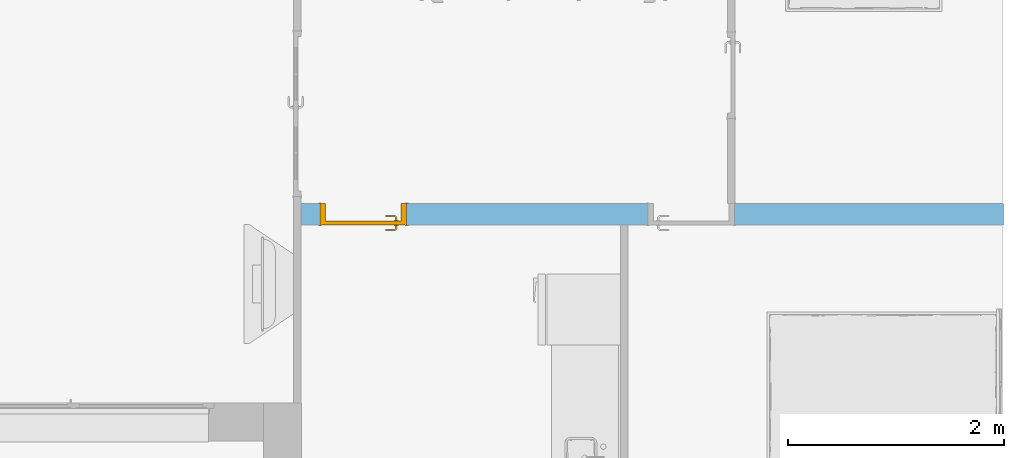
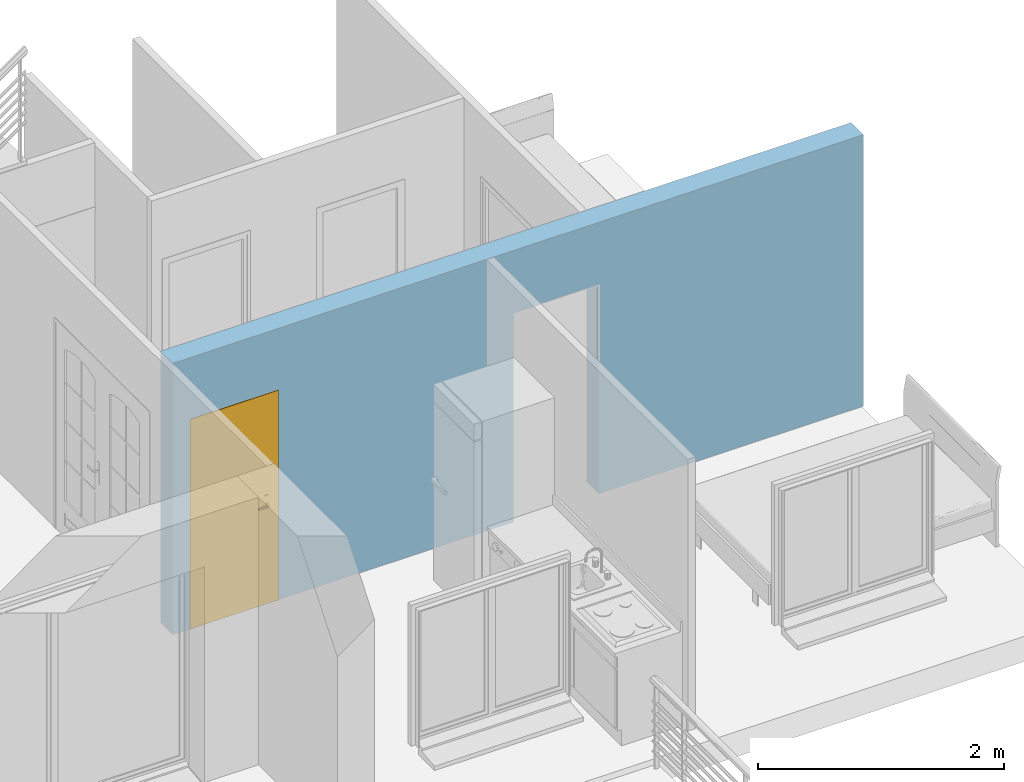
# One storey, part 8 of 15: 1 door, 2 openings, plus 1 element that does not belong to this part.
"""IFC2X3 building model written with IfcOpenShell, lengths in metres."""

from ifc_helpers import new_model, entity, si_unit, converted_unit, derived_unit, direction, frame, frame_2d, origin, place, context, subcontext, project, spatial, polyline, rectangle, extrude, clip, bounded_halfspace, faceted_brep, source, transform, mapped, material, material_list, layer, layer_set, layer_usage, type_object, type_shapes, element, fill, save


model = new_model("IFC2X3")

# Units and contexts
model_context = context("Model", 3, precision=1e-05, world=origin(), true_north=direction((6.12303176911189e-17, 1.0)))
body_context = subcontext(model_context, "Body", "Model", "MODEL_VIEW")
ifc_project = project(units=[si_unit("LENGTHUNIT", "METRE"), si_unit("AREAUNIT", "SQUARE_METRE"), si_unit("VOLUMEUNIT", "CUBIC_METRE"), converted_unit("PLANEANGLEUNIT", "DEGREE", entity("IfcRatioMeasure", 0.0174532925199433), si_unit("PLANEANGLEUNIT", "RADIAN"), dimensions=[0, 0, 0, 0, 0, 0, 0]), si_unit("MASSUNIT", "GRAM", prefix="KILO"), derived_unit("MASSDENSITYUNIT", [(si_unit("MASSUNIT", "GRAM", prefix="KILO"), 1), (si_unit("LENGTHUNIT", "METRE"), -3)]), derived_unit("MOMENTOFINERTIAUNIT", [(si_unit("LENGTHUNIT", "METRE"), 4)]), si_unit("TIMEUNIT", "SECOND"), si_unit("FREQUENCYUNIT", "HERTZ"), si_unit("THERMODYNAMICTEMPERATUREUNIT", "DEGREE_CELSIUS"), derived_unit("THERMALTRANSMITTANCEUNIT", [(si_unit("MASSUNIT", "GRAM", prefix="KILO"), 1), (si_unit("THERMODYNAMICTEMPERATUREUNIT", "KELVIN"), -1), (si_unit("TIMEUNIT", "SECOND"), -3)]), derived_unit("VOLUMETRICFLOWRATEUNIT", [(si_unit("LENGTHUNIT", "METRE"), 3), (si_unit("TIMEUNIT", "SECOND"), -1)]), si_unit("ELECTRICCURRENTUNIT", "AMPERE"), si_unit("ELECTRICVOLTAGEUNIT", "VOLT"), si_unit("POWERUNIT", "WATT"), si_unit("FORCEUNIT", "NEWTON", prefix="KILO"), si_unit("ILLUMINANCEUNIT", "LUX"), si_unit("LUMINOUSFLUXUNIT", "LUMEN"), si_unit("LUMINOUSINTENSITYUNIT", "CANDELA"), derived_unit("USERDEFINED", [(si_unit("MASSUNIT", "GRAM", prefix="KILO"), -1), (si_unit("LENGTHUNIT", "METRE"), -2), (si_unit("TIMEUNIT", "SECOND"), 3), (si_unit("LUMINOUSFLUXUNIT", "LUMEN"), 1)]), derived_unit("LINEARVELOCITYUNIT", [(si_unit("LENGTHUNIT", "METRE"), 1), (si_unit("TIMEUNIT", "SECOND"), -1)]), si_unit("PRESSUREUNIT", "PASCAL"), derived_unit("USERDEFINED", [(si_unit("LENGTHUNIT", "METRE"), -2), (si_unit("MASSUNIT", "GRAM", prefix="KILO"), 1), (si_unit("TIMEUNIT", "SECOND"), -2)]), derived_unit("LINEARFORCEUNIT", [(si_unit("MASSUNIT", "GRAM", prefix="KILO"), 1), (si_unit("LENGTHUNIT", "METRE"), 1), (si_unit("TIMEUNIT", "SECOND"), -2), (si_unit("LENGTHUNIT", "METRE"), -1)]), derived_unit("PLANARFORCEUNIT", [(si_unit("MASSUNIT", "GRAM", prefix="KILO"), 1), (si_unit("LENGTHUNIT", "METRE"), 1), (si_unit("TIMEUNIT", "SECOND"), -2), (si_unit("LENGTHUNIT", "METRE"), -2)])], contexts=[model_context])

# Site, building, storey
site_placement = place(None, origin())
site = spatial("IfcSite", under=ifc_project, at=site_placement, Name="Surface", CompositionType="ELEMENT")
building_placement = place(site_placement, origin())
building = spatial("IfcBuilding", under=site, at=building_placement, CompositionType="ELEMENT")
storey_placement = place(building_placement, frame((0.0, 0.0, 2.65)))
storey = spatial("IfcBuildingStorey", under=building, at=storey_placement, Name="Niveau étage", CompositionType="ELEMENT", Elevation=2.65)

# Wall, openings, door
ifc_material_1 = material(Name="Mur par défaut")
ifc_layer = layer(ifc_material_1, 0.2)
ifc_layer_set = layer_set([ifc_layer], Name="Mur de base:Générique - Ext. 200 mm")
ifc_layer_usage = layer_usage(ifc_layer_set, "AXIS2", "NEGATIVE", 0.1)
wall_type = type_object("IfcWallType", Name="Mur de base:Générique - Ext. 200 mm", PredefinedType="STANDARD", material=ifc_layer_set)
wall_placement = place(storey_placement, frame((5.95939607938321, 2.9542581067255, 0.0)))
wall = element("IfcWallStandardCase", 1, at=wall_placement, inside=storey, type_object=wall_type, material=ifc_layer_usage, Name="Mur de base:Générique - Ext. 200 mm", ObjectType="Mur de base:Générique - Ext. 200 mm", context=body_context, shape_type="Clipping", body=[
    clip(extrude(rectangle(XDim=6.495, YDim=0.2, at=frame_2d((3.2475, -7.63278329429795e-17), x_axis=(-1.0, 0.0))), origin(), (0.0, 0.0, 1.0), 2.7), bounded_halfspace(frame((0.0, -0.1, 2.7), z_axis=(0.0, 0.0, -1.0), x_axis=(-1.0, 0.0, 0.0)), True, frame((0.0, -0.1, 2.7)), polyline([(0.0, 0.0), (2.95, 0.0), (3.02, 0.0), (6.495, 0.0), (6.495, 0.2), (4.01, 0.2), (3.94, 0.2), (0.0, 0.2), (0.0, 0.0)]))),
])
opening_1_placement = place(wall_placement, frame((0.974999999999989, 0.0999999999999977, 0.0)))
opening_1 = element("IfcOpeningElement", 2, at=opening_1_placement, cuts=wall, Name="Int. Simple:PP (0.73m x 2.04m):1", ObjectType="Opening", context=body_context, shape_type="SweptSolid", body=[
    extrude(rectangle(XDim=2.075, YDim=0.799999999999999, at=frame_2d((1.0375, 0.4), x_axis=(1.0, 0.0))), frame((0.0, 0.0, 0.0), z_axis=(0.0, -1.0, 0.0), x_axis=(0.0, 0.0, 1.0)), (0.0, 0.0, 1.0), 0.2),
])
opening_2_placement = place(wall_placement, frame((4.00500000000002, 0.0999999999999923, 0.0)))
element("IfcOpeningElement", 3, at=opening_2_placement, cuts=wall, Name="Int. Simple:PP (0.73m x 2.04m):1", ObjectType="Opening", context=body_context, shape_type="SweptSolid", body=[
    extrude(rectangle(XDim=2.075, YDim=0.799999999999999, at=frame_2d((1.0375, 0.4), x_axis=(1.0, 0.0))), frame((0.0, 0.0, 0.0), z_axis=(0.0, -1.0, 0.0), x_axis=(0.0, 0.0, 1.0)), (0.0, 0.0, 1.0), 0.2),
])
ifc_material_2 = material(Name="Finition Peinture - Blanc satiné")
ifc_material_3 = material(Name="Bois - Panneau de porte")
ifc_material_4 = material(Name="Bois - Cadre de porte")
ifc_material_list_1 = material_list([ifc_material_2, ifc_material_3, ifc_material_4])
ifc_material_list_2 = material_list([ifc_material_4, ifc_material_3, ifc_material_2])
door_style = type_object("IfcDoorStyle", Name="Int. Simple:PP (0.73m x 2.04m)", ConstructionType="NOTDEFINED", OperationType="NOTDEFINED", ParameterTakesPrecedence=False, Sizeable=False, material=ifc_material_list_2)
shared_shape = source(origin(), body_context, "Body", "Brep", [
    faceted_brep([(0.795000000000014, -0.00500000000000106, 0.870000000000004), (0.795000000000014, -0.00500000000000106, 1.08), (0.785352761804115, -0.00500000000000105, 1.08399601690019), (0.775000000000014, -0.00500000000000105, 1.08535898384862), (0.764647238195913, -0.00500000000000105, 1.08399601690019), (0.755000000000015, -0.00500000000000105, 1.08), (0.755000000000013, -0.00500000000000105, 0.870000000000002), (0.764647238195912, -0.00500000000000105, 0.866003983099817), (0.775000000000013, -0.00500000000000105, 0.86464101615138), (0.785352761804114, -0.00500000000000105, 0.866003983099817), (0.795000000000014, 0.0, 1.08), (0.795000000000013, 0.0, 0.870000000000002), (0.785352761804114, 0.0, 0.866003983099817), (0.775000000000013, 0.0, 0.86464101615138), (0.764647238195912, 0.0, 0.866003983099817), (0.755000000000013, 0.0, 0.870000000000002), (0.755000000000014, 0.0, 1.08), (0.764647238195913, 0.0, 1.08399601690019), (0.775000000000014, 0.0, 1.08535898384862), (0.785352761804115, 0.0, 1.08399601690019)], [[[0, 1, 2, 3, 4, 5, 6, 7, 8, 9]], [[10, 11, 12, 13, 14, 15, 16, 17, 18, 19]], [[9, 12, 11, 0]], [[8, 13, 12, 9]], [[7, 14, 13, 8]], [[7, 6, 15, 14]], [[15, 6, 5, 16]], [[4, 17, 16, 5]], [[3, 18, 17, 4]], [[2, 19, 18, 3]], [[2, 1, 10, 19]], [[11, 10, 1, 0]]]),
    faceted_brep([(0.795000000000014, 0.0399999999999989, 0.870000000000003), (0.795000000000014, 0.0399999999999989, 1.08), (0.785352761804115, 0.0399999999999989, 1.08399601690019), (0.775000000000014, 0.0399999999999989, 1.08535898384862), (0.764647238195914, 0.0399999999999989, 1.08399601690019), (0.755000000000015, 0.0399999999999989, 1.08), (0.755000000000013, 0.0399999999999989, 0.870000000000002), (0.764647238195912, 0.0399999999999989, 0.866003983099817), (0.775000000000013, 0.0399999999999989, 0.86464101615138), (0.785352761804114, 0.0399999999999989, 0.866003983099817), (0.775000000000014, 0.0449999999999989, 1.08535898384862), (0.785352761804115, 0.0449999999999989, 1.08399601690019), (0.795000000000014, 0.0449999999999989, 1.08), (0.795000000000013, 0.0449999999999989, 0.870000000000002), (0.785352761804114, 0.0449999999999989, 0.866003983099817), (0.775000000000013, 0.0449999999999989, 0.86464101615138), (0.764647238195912, 0.0449999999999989, 0.866003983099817), (0.755000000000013, 0.0449999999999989, 0.870000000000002), (0.755000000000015, 0.0449999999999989, 1.08), (0.764647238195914, 0.0449999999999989, 1.08399601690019)], [[[0, 1, 2, 3, 4, 5, 6, 7, 8, 9]], [[10, 11, 12, 13, 14, 15, 16, 17, 18, 19]], [[4, 19, 18, 5]], [[3, 10, 19, 4]], [[2, 11, 10, 3]], [[2, 1, 12, 11]], [[13, 12, 1, 0]], [[9, 14, 13, 0]], [[8, 15, 14, 9]], [[7, 16, 15, 8]], [[7, 6, 17, 16]], [[17, 6, 5, 18]]]),
    faceted_brep([(0.772974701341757, -0.00500000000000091, 1.00778044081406), (0.777025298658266, -0.00500000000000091, 1.00778044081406), (0.781000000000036, -0.00500000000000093, 1.00699999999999), (0.781000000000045, -0.00500000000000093, 0.992999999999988), (0.777025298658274, -0.00500000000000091, 0.99221955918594), (0.772974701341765, -0.00500000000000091, 0.992219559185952), (0.768999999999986, -0.00500000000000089, 0.993000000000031), (0.768999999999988, -0.00500000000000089, 1.007), (0.777025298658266, -0.0310045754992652, 1.00778044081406), (0.781000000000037, -0.0326509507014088, 1.007), (0.772974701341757, -0.0293267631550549, 1.00778044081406), (0.759298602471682, -0.0430028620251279, 1.00778044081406), (0.760976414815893, -0.0470534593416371, 1.00778044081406), (0.768999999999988, -0.0276803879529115, 1.007), (0.768999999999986, -0.0276803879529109, 0.993000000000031), (0.772974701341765, -0.0293267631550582, 0.992219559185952), (0.777025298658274, -0.0310045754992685, 0.99221955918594), (0.760976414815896, -0.0470534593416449, 0.99221955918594), (0.759298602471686, -0.0430028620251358, 0.992219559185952), (0.781000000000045, -0.0326509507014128, 0.992999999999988), (0.762622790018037, -0.051028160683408, 1.007), (0.757652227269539, -0.0390281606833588, 1.007), (0.757652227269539, -0.0390281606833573, 0.993000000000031), (0.76262279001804, -0.0510281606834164, 0.992999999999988), (0.674981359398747, -0.0510281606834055, 1.007), (0.674981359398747, -0.0470534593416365, 1.00778044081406), (0.674981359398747, -0.0430028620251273, 1.00778044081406), (0.674981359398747, -0.0390281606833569, 1.00699999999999), (0.674981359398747, -0.0390281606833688, 0.993000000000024), (0.674981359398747, -0.0430028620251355, 0.992219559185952), (0.674981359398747, -0.0470534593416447, 0.99221955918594), (0.674981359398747, -0.0510281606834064, 0.992999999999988), (0.71713998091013, -0.045028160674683, 1.0078786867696), (0.722692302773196, -0.051028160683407, 1.007), (0.716316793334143, -0.039028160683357, 1.007), (0.716316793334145, -0.0390281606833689, 0.993000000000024), (0.717139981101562, -0.0450281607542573, 0.992121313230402), (0.722692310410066, -0.0510281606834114, 0.992999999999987)], [[[0, 1, 2, 3, 4, 5, 6, 7]], [[2, 1, 8, 9]], [[1, 0, 10, 11, 12, 8]], [[0, 7, 13, 10]], [[14, 13, 7, 6]], [[5, 15, 14, 6]], [[5, 4, 16, 17, 18, 15]], [[3, 19, 16, 4]], [[9, 19, 3, 2]], [[9, 8, 12, 20]], [[10, 13, 21, 11]], [[22, 21, 13, 14]], [[14, 15, 18, 22]], [[16, 19, 23, 17]], [[20, 23, 19, 9]], [[24, 25, 26, 27, 28, 29, 30, 31]], [[32, 25, 33]], [[33, 25, 24]], [[33, 20, 12]], [[11, 34, 32]], [[34, 11, 21]], [[27, 26, 34]], [[32, 26, 25]], [[32, 34, 26]], [[32, 33, 12]], [[11, 32, 12]], [[21, 22, 35, 28, 27, 34]], [[36, 29, 35]], [[30, 36, 37]], [[18, 35, 22]], [[29, 28, 35]], [[30, 37, 31]], [[37, 17, 23]], [[36, 17, 37]], [[36, 18, 17]], [[36, 35, 18]], [[29, 36, 30]], [[23, 20, 33, 24, 31, 37]]]),
    faceted_brep([(0.772974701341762, 0.0449999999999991, 0.992219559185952), (0.777025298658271, 0.0449999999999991, 0.99221955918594), (0.781000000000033, 0.044999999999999, 0.992999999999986), (0.781000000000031, 0.044999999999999, 1.007), (0.777025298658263, 0.0449999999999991, 1.00778044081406), (0.772974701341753, 0.0449999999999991, 1.00778044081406), (0.768999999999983, 0.0449999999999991, 1.007), (0.768999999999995, 0.0449999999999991, 0.993000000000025), (0.768999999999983, 0.067485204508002, 1.007), (0.768999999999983, 0.0674852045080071, 0.993000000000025), (0.772974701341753, 0.0691315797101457, 1.00778044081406), (0.777025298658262, 0.070809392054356, 1.00778044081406), (0.760838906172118, 0.0869957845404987, 1.00778044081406), (0.759161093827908, 0.0829451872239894, 1.00778044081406), (0.781000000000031, 0.0724557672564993, 1.007), (0.781000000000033, 0.0724557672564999, 0.992999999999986), (0.777025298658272, 0.0708093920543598, 0.99221955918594), (0.772974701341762, 0.0691315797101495, 0.992219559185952), (0.759161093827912, 0.0829451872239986, 0.992219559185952), (0.760838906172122, 0.0869957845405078, 0.99221955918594), (0.757514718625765, 0.0789704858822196, 1.007), (0.757514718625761, 0.0789704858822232, 0.993000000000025), (0.762485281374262, 0.0909704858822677, 1.007), (0.762485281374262, 0.0909704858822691, 0.992999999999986), (0.674954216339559, 0.0829451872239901, 1.00778044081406), (0.674954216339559, 0.0869957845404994, 1.00778044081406), (0.674954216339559, 0.0909704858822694, 1.007), (0.674954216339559, 0.0909704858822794, 0.992999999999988), (0.674954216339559, 0.086995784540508, 0.99221955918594), (0.674954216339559, 0.0829451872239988, 0.992219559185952), (0.674954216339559, 0.0789704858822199, 0.993000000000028), (0.674954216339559, 0.0789704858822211, 1.007), (0.716234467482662, 0.0789704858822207, 1.007), (0.716234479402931, 0.0789704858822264, 0.993000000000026), (0.717057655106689, 0.0849704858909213, 1.0078786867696), (0.722554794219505, 0.0909704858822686, 1.007), (0.722554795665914, 0.0909704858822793, 0.992999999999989), (0.717057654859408, 0.0849704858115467, 0.992121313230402)], [[[0, 1, 2, 3, 4, 5, 6, 7]], [[8, 9, 7, 6]], [[5, 10, 8, 6]], [[5, 4, 11, 12, 13, 10]], [[3, 14, 11, 4]], [[14, 3, 2, 15]], [[2, 1, 16, 15]], [[1, 0, 17, 18, 19, 16]], [[0, 7, 9, 17]], [[20, 21, 9, 8]], [[8, 10, 13, 20]], [[14, 22, 12, 11]], [[23, 22, 14, 15]], [[15, 16, 19, 23]], [[17, 9, 21, 18]], [[24, 25, 26, 27, 28, 29, 30, 31]], [[21, 20, 32, 31, 30, 33]], [[34, 24, 32]], [[25, 34, 35]], [[13, 32, 20]], [[24, 31, 32]], [[25, 35, 26]], [[35, 12, 22]], [[34, 12, 35]], [[34, 13, 12]], [[34, 32, 13]], [[24, 34, 25]], [[22, 23, 36, 27, 26, 35]], [[37, 28, 36]], [[36, 28, 27]], [[36, 23, 19]], [[18, 33, 37]], [[33, 18, 21]], [[30, 29, 33]], [[37, 29, 28]], [[37, 33, 29]], [[37, 36, 19]], [[18, 37, 19]]]),
    faceted_brep([(0.835000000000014, 0.04, 2.04), (0.835000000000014, 0.04, 0.0), (0.105000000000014, 0.04, 0.0), (0.105000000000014, 0.04, 2.04), (0.835000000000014, 0.0, 2.04), (0.105000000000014, 0.0, 2.04), (0.105000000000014, 0.0, 0.0), (0.835000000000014, 0.0, 0.0)], [[[0, 1, 2, 3]], [[4, 5, 6, 7]], [[3, 5, 4, 0]], [[2, 6, 5, 3]], [[1, 7, 6, 2]], [[0, 4, 7, 1]]]),
    faceted_brep([(0.870000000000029, 0.0, 0.0), (0.835000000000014, 0.0, 0.0), (0.835000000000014, 0.040000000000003, 0.0), (0.820000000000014, 0.040000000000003, 0.0), (0.820000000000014, 0.200000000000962, 0.0), (0.870000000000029, 0.200000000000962, 0.0), (0.870000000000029, 0.200000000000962, 2.07500000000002), (0.870000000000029, 0.0, 2.07500000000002), (0.820000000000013, 0.200000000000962, 2.025), (0.120000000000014, 0.200000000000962, 2.025), (0.120000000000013, 0.200000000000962, 0.0), (0.0699999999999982, 0.200000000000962, 0.0), (0.0699999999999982, 0.200000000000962, 2.07500000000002), (0.820000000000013, 0.040000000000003, 2.025), (0.835000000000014, 0.040000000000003, 2.04), (0.105000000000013, 0.040000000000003, 2.04), (0.105000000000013, 0.040000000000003, 0.0), (0.120000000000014, 0.040000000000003, 0.0), (0.120000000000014, 0.040000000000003, 2.025), (0.835000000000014, 0.0, 2.04), (0.0699999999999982, 0.0, 2.07500000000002), (0.0699999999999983, 0.0, 0.0), (0.105000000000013, 0.0, 0.0), (0.105000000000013, 0.0, 2.04)], [[[0, 1, 2, 3, 4, 5]], [[5, 6, 7, 0]], [[4, 8, 9, 10, 11, 12, 6, 5]], [[3, 13, 8, 4]], [[2, 14, 15, 16, 17, 18, 13, 3]], [[1, 19, 14, 2]], [[0, 7, 20, 21, 22, 23, 19, 1]], [[12, 11, 21, 20]], [[21, 11, 10, 17, 16, 22]], [[18, 17, 10, 9]], [[23, 22, 16, 15]], [[6, 12, 20, 7]], [[13, 18, 9, 8]], [[19, 23, 15, 14]]]),
    faceted_brep([(0.855000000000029, 0.200000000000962, 0.0), (0.855000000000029, 0.205000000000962, 0.0), (0.885000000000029, 0.205000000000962, 0.0), (0.885000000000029, 0.200000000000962, 0.0), (0.885000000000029, 0.200000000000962, 2.09000000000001), (0.0550000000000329, 0.200000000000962, 2.09000000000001), (0.055000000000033, 0.200000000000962, 0.0), (0.0850000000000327, 0.200000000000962, 0.0), (0.0850000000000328, 0.200000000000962, 2.06000000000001), (0.855000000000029, 0.200000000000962, 2.06000000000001), (0.885000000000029, 0.205000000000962, 2.09000000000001), (0.855000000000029, 0.205000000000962, 2.06000000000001), (0.0850000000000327, 0.205000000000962, 2.06000000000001), (0.0850000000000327, 0.205000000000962, 0.0), (0.0550000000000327, 0.205000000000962, 0.0), (0.0550000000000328, 0.205000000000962, 2.09000000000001)], [[[0, 1, 2, 3]], [[3, 4, 5, 6, 7, 8, 9, 0]], [[2, 10, 4, 3]], [[1, 11, 12, 13, 14, 15, 10, 2]], [[0, 9, 11, 1]], [[7, 6, 14, 13]], [[8, 7, 13, 12]], [[15, 14, 6, 5]], [[10, 15, 5, 4]], [[9, 8, 12, 11]]]),
    faceted_brep([(0.885000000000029, -0.00500000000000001, 0.0), (0.885000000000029, -0.00500000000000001, 2.09000000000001), (0.0550000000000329, -0.00500000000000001, 2.09000000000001), (0.055000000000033, -0.00500000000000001, 0.0), (0.0850000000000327, -0.00500000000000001, 0.0), (0.0850000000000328, -0.00500000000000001, 2.06000000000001), (0.855000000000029, -0.00500000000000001, 2.06000000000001), (0.855000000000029, -0.00500000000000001, 0.0), (0.885000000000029, 0.0, 0.0), (0.885000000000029, 0.0, 2.09000000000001), (0.855000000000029, 0.0, 0.0), (0.855000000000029, 0.0, 2.06000000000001), (0.0850000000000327, 0.0, 2.06000000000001), (0.0850000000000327, 0.0, 0.0), (0.0550000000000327, 0.0, 0.0), (0.0550000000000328, 0.0, 2.09000000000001)], [[[0, 1, 2, 3, 4, 5, 6, 7]], [[8, 9, 1, 0]], [[10, 11, 12, 13, 14, 15, 9, 8]], [[7, 6, 11, 10]], [[5, 4, 13, 12]], [[15, 14, 3, 2]], [[9, 15, 2, 1]], [[6, 5, 12, 11]], [[4, 3, 14, 13]], [[7, 10, 8, 0]]]),
])
type_shapes(door_style, [shared_shape])
door_placement = place(opening_1_placement, frame((-0.870000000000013, -0.199999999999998, 0.0)))
door = element("IfcDoor", 4, at=door_placement, inside=storey, type_object=door_style, material=ifc_material_list_1, Name="Int. Simple:PP (0.73m x 2.04m)", ObjectType="Int. Simple:PP (0.73m x 2.04m)", OverallHeight=2.075, OverallWidth=0.8, context=body_context, shape_type="MappedRepresentation", body=[
    mapped(shared_shape, transform((0.0, 0.0, 0.0), scale=1.0)),
])
fill(opening_1, door)

save(model, "model.ifc")
